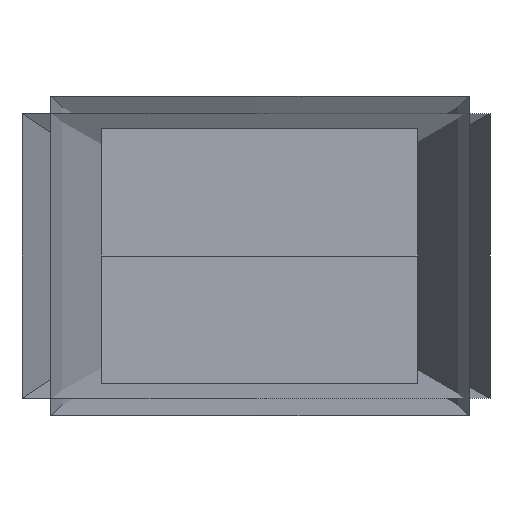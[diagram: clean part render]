
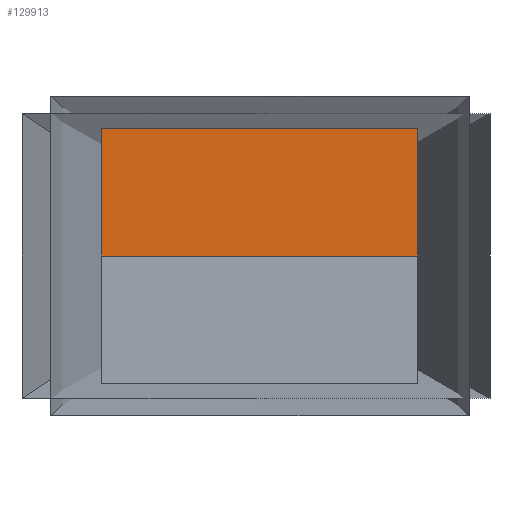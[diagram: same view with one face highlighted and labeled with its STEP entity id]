
A CAD part, left-side view. The second image highlights one B-rep face of the part: STEP entity #129913.
In plain terms, the highlighted planar face has unit normal (1, 0, 0).
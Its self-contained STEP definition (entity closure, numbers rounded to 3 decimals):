
#129720=DIRECTION('',(0.,0.,1.));
#129721=VECTOR('',#129720,290.);
#129722=CARTESIAN_POINT('',(-1240.5,-360.,0.));
#129723=LINE('',#129722,#129721);
#129727=DIRECTION('',(0.,0.,-1.));
#129728=VECTOR('',#129727,290.);
#129729=CARTESIAN_POINT('',(-1240.5,360.,290.));
#129730=LINE('',#129729,#129728);
#129748=DIRECTION('',(0.,1.,0.));
#129749=VECTOR('',#129748,720.);
#129750=CARTESIAN_POINT('',(-1240.5,-360.,290.));
#129751=LINE('',#129750,#129749);
#129797=DIRECTION('',(0.,-1.,0.));
#129798=VECTOR('',#129797,720.);
#129799=CARTESIAN_POINT('',(-1240.5,360.,0.));
#129800=LINE('',#129799,#129798);
#129874=CARTESIAN_POINT('',(-1240.5,-360.,290.));
#129875=CARTESIAN_POINT('',(-1240.5,-360.,0.));
#129876=VERTEX_POINT('',#129874);
#129877=VERTEX_POINT('',#129875);
#129878=CARTESIAN_POINT('',(-1240.5,360.,0.));
#129879=CARTESIAN_POINT('',(-1240.5,360.,290.));
#129880=VERTEX_POINT('',#129878);
#129881=VERTEX_POINT('',#129879);
#129898=CARTESIAN_POINT('',(-1240.5,0.,145.));
#129899=DIRECTION('',(1.,0.,0.));
#129900=DIRECTION('',(0.,0.,-1.));
#129901=AXIS2_PLACEMENT_3D('',#129898,#129899,#129900);
#129902=PLANE('',#129901);
#129904=ORIENTED_EDGE('',*,*,#129903,.T.);
#129906=ORIENTED_EDGE('',*,*,#129905,.T.);
#129908=ORIENTED_EDGE('',*,*,#129907,.T.);
#129910=ORIENTED_EDGE('',*,*,#129909,.T.);
#129911=EDGE_LOOP('',(#129904,#129906,#129908,#129910));
#129912=FACE_OUTER_BOUND('',#129911,.F.);
#129903=EDGE_CURVE('',#129877,#129876,#129723,.T.);
#129905=EDGE_CURVE('',#129876,#129881,#129751,.T.);
#129907=EDGE_CURVE('',#129881,#129880,#129730,.T.);
#129909=EDGE_CURVE('',#129880,#129877,#129800,.T.);
#129913=ADVANCED_FACE('',(#129912),#129902,.T.);
